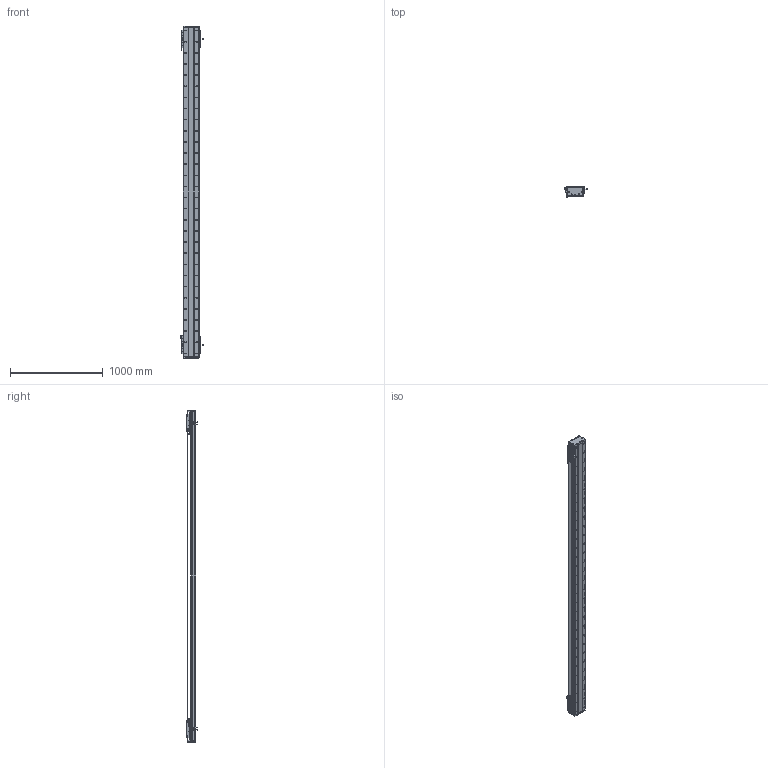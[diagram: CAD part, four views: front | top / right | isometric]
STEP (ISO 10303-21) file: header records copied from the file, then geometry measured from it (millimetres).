
FILE_DESCRIPTION (( 'STEP AP203' ), '1' );
FILE_NAME ('DA-C165-2-C2-T3080-C010-0.2 直线电机.STEP', '2023-05-11T08:33:41', ( '微软用户' ), ( '微软中国' ), 'SwSTEP 2.0', 'SolidWorks 2019', '' );
FILE_SCHEMA (( 'CONFIG_CONTROL_DESIGN' ));
Length unit declared in the file: millimetre
Products named in the file (22): 葩璃 CKM01-W075-TRL^DA-C165-C2-T-C010-0.2-N 眻盄萇儂; 复件 DA165-GYP-00 光电感应片^DA-C165-C2-T-C010-0.2-N 直线电机; 复件 DA95-HXJ-00 缓冲橡胶^DA-C165-C2-T-C010-0.2-N 直线电机; 复件 DA165-GDYK-00 钢带压块^复件 CU165钢带组件_DA-C165-C2-T-C010-0.2-N 直线电机; 复件 XD-U-02L 磁栅尺^DA-C165-C2-T-C010-0.2-N 直线电机_T; 复件 CU165钢带组件^DA-C165-C2-T-C010-0.2-N 直线电机; 复件 66338-1000-006-00 光电感应块^DA-C165-C2-T-C010-0.2-N 直线电机; 复件 DA165-GD-1860-002-00 钢带盖板^复件 CU165钢带组件_DA-C165-C2-T-C010-0.2-N 直线电机; 复件 六角薄螺母 M3^DA-C165-C2-T-C010-0.2-N 直线电机_GB_FASTENER_NUT_STNAB M3-C; 复件 CKM02-W075-C1C2-TP-3.0 一体电机-C2^DA-C165-C2-T-C010-0.2-N 直线电机; 复件 DA165-GD-DG-H-00 端盖^复件 CU165钢带组件_DA-C165-C2-T-C010-0.2-N 直线电机; 复件 DKW-HXJ-JY-00 缓冲橡胶^DA-C165-C2-T-C010-0.2-N 直线电机; 葩璃 PM-Y45^DA-C165-C2-T-C010-0.2-N 眻盄萇儂; 复件 DMA-010-0.2 读数头^DA-C165-C2-T-C010-0.2-N 直线电机; 葩璃 DA95-GT-T-00^IU-CU165-L 菁釱絳寢_T; DA-C165-2-C2-T3080-C010-0.2 眻盄萇儂; 复件 DA165-GDLK-00 钢带拉块^复件 CU165钢带组件_DA-C165-C2-T-C010-0.2-N 直线电机; 珨极趙賑雄怢啣wf-C2; IU-CU165-L 菁釱絳寢; 葩璃 PM-T45^DA-C165-C2-T-C010-0.2-N 眻盄萇儂; 复件 DA126-GYP-ZJ-00 中间光电感应片^DA-C165-C2-T-C010-0.2-N 直线电机; IU-CU165-L-00 菁釱_L3540
Assembly tree (43 placements, depth 3):
  DA-C165-2-C2-T3080-C010-0.2 眻盄萇儂
    IU-CU165-L 菁釱絳寢
      IU-CU165-L-00 菁釱_L3540
      葩璃 DA95-GT-T-00^IU-CU165-L 菁釱絳寢_T  x4
    复件 XD-U-02L 磁栅尺^DA-C165-C2-T-C010-0.2-N 直线电机_T
    葩璃 PM-T45^DA-C165-C2-T-C010-0.2-N 眻盄萇儂  x4
    葩璃 CKM01-W075-TRL^DA-C165-C2-T-C010-0.2-N 眻盄萇儂
    复件 CU165钢带组件^DA-C165-C2-T-C010-0.2-N 直线电机
      复件 DA165-GD-DG-H-00 端盖^复件 CU165钢带组件_DA-C165-C2-T-C010-0.2-N 直线电机  x2
      复件 DA165-GDYK-00 钢带压块^复件 CU165钢带组件_DA-C165-C2-T-C010-0.2-N 直线电机  x2
      复件 DA165-GD-1860-002-00 钢带盖板^复件 CU165钢带组件_DA-C165-C2-T-C010-0.2-N 直线电机
      复件 DA165-GDLK-00 钢带拉块^复件 CU165钢带组件_DA-C165-C2-T-C010-0.2-N 直线电机  x2
    复件 DA95-HXJ-00 缓冲橡胶^DA-C165-C2-T-C010-0.2-N 直线电机  x4
    复件 CKM02-W075-C1C2-TP-3.0 一体电机-C2^DA-C165-C2-T-C010-0.2-N 直线电机  x2
    复件 DMA-010-0.2 读数头^DA-C165-C2-T-C010-0.2-N 直线电机  x2
    复件 DA165-GYP-00 光电感应片^DA-C165-C2-T-C010-0.2-N 直线电机  x2
    复件 66338-1000-006-00 光电感应块^DA-C165-C2-T-C010-0.2-N 直线电机
    葩璃 PM-Y45^DA-C165-C2-T-C010-0.2-N 眻盄萇儂
    复件 DA126-GYP-ZJ-00 中间光电感应片^DA-C165-C2-T-C010-0.2-N 直线电机
    复件 DKW-HXJ-JY-00 缓冲橡胶^DA-C165-C2-T-C010-0.2-N 直线电机  x2
    复件 六角薄螺母 M3^DA-C165-C2-T-C010-0.2-N 直线电机_GB_FASTENER_NUT_STNAB M3-C  x6
    珨极趙賑雄怢啣wf-C2  x2
Bounding box: 247.2 x 111.45 x 3580 mm (x, y, z)
Volume: 20738696 mm3; surface area: 6161692.7 mm2
Topology: 119 solids, 119 shells, 6139 faces, 17714 edges, 11254 vertices
Faces by surface type: cylinder 3508, plane 1839, cone 704, torus 80, sphere 8
Entity records: 160644 total; most frequent: CARTESIAN_POINT 45263, ORIENTED_EDGE 24372, DIRECTION 22902, EDGE_CURVE 12186, AXIS2_PLACEMENT_3D 8748, VERTEX_POINT 7991, EDGE_LOOP 5485, VECTOR 5406
